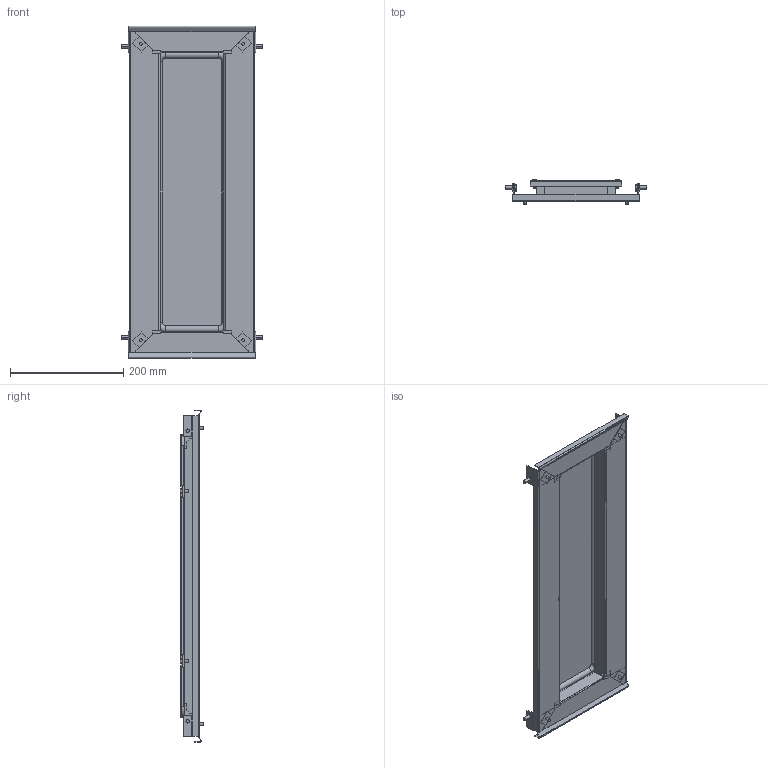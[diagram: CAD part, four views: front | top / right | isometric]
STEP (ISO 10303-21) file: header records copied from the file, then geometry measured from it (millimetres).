
FILE_DESCRIPTION((''),'2;1');
FILE_NAME('SB106368','2013-09-18T',('SESA231906'),('Schneider-Electric'),'PRO/ENGINEER BY PARAMETRIC TECHNOLOGY CORPORATION, 2011410','PRO/ENGINEER BY PARAMETRIC TECHNOLOGY CORPORATION, 2011410','');
FILE_SCHEMA(('CONFIG_CONTROL_DESIGN'));
Length unit declared in the file: millimetre
Products named in the file (1): SB106368
Bounding box: 250.1 x 42 x 587 mm (x, y, z)
Volume: 363673.4 mm3; surface area: 465934 mm2
Topology: 1 solids, 1 shells, 521 faces, 1423 edges, 906 vertices
Faces by surface type: plane 381, cylinder 104, torus 20, sphere 16
Entity records: 16581 total; most frequent: CARTESIAN_POINT 3194, ORIENTED_EDGE 2814, DIRECTION 2747, EDGE_CURVE 1407, VECTOR 1053, LINE 1053, VERTEX_POINT 906, AXIS2_PLACEMENT_3D 847
